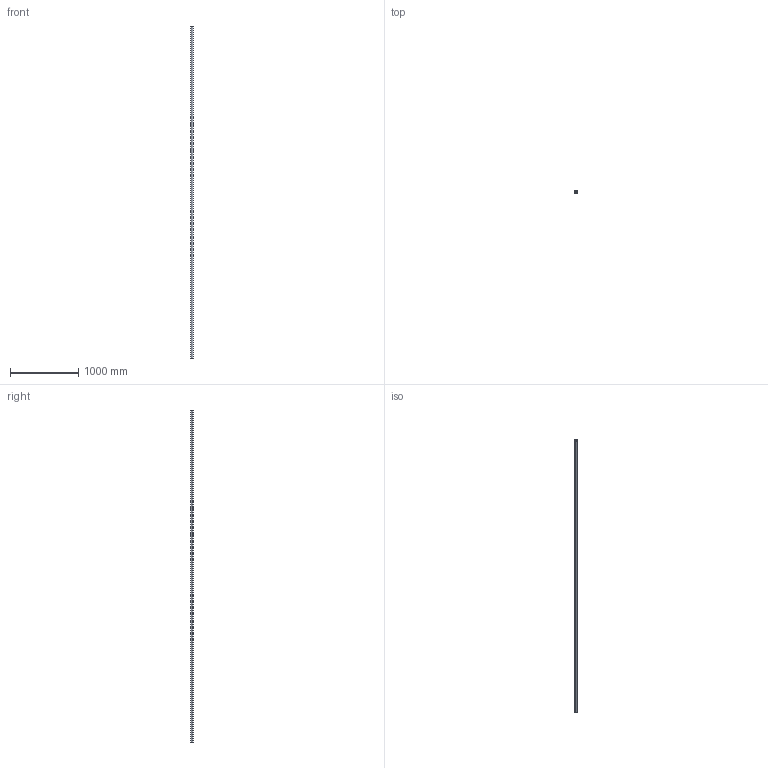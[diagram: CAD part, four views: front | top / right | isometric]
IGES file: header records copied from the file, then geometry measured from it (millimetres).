
Start section: SolidWorks IGES file using analytic representation for surfaces
Global section: file name: C:\Users\IanO\Desktop\L1771_v2\L1771.40_v2\L1771.40_v2_20230705_IGES\L1771.40-4850.igs; native system: SolidWorks 2019; preprocessor: SolidWorks 2019; author: IanO; date: 230705.162755; units: millimetre
Bounding box: 40 x 40 x 4850 mm (x, y, z)
Surface area: 1037379 mm2 (no closed solid volume)
Topology: 0 solids, 0 shells, 6 faces, 272 edges, 272 vertices
Faces by surface type: revolution 4, bspline 2
